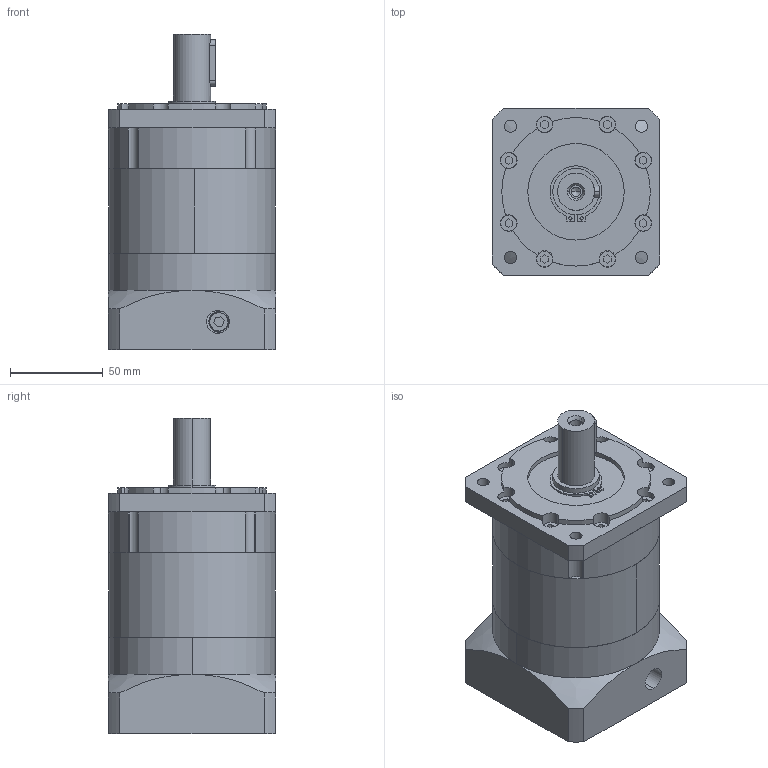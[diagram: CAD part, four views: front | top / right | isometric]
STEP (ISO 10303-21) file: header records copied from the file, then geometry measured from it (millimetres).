
FILE_DESCRIPTION (( 'STEP AP203' ), '1' );
FILE_NAME ('PLF090-L2-19-80-100.STEP', '2025-03-12T09:42:17', ( 'Windows User' ), ( 'P R C' ), 'SwSTEP 2.0', 'SolidWorks 2016', '' );
FILE_SCHEMA (( 'CONFIG_CONTROL_DESIGN' ));
Length unit declared in the file: millimetre
Products named in the file (8): PLF090-L2-19-80-100; PLF90 蟀諉啣-80-M5-100_D8-70 D9-90 D10-M5 A2-90 L4-32 L6-47(32+15) L7-6 R-59.5梓袧; PLF90 內齿圈-优化_二级内齿圈; PLF90 奻屳唳_梓袧; PLF90 狟屳唳_D6-90 D7-19 梓袧; 囀鞠褒蹟佪 M6x20; 邧埴瑩 6x6x25; 粣創-6007 35x62x14
Assembly tree (7 placements, depth 2):
  PLF090-L2-19-80-100
    PLF90 蟀諉啣-80-M5-100_D8-70 D9-90 D10-M5 A2-90 L4-32 L6-47(32+15) L7-6 R-59.5梓袧
    PLF90 內齿圈-优化_二级内齿圈
    PLF90 奻屳唳_梓袧
    PLF90 狟屳唳_D6-90 D7-19 梓袧
    囀鞠褒蹟佪 M6x20
    邧埴瑩 6x6x25
    粣創-6007 35x62x14
Bounding box: 90 x 90 x 170 mm (x, y, z)
Volume: 803508.5 mm3; surface area: 145491.8 mm2
Topology: 7 solids, 7 shells, 1084 faces, 2923 edges, 1932 vertices
Faces by surface type: plane 568, bspline 304, cylinder 198, cone 14
Entity records: 47132 total; most frequent: CARTESIAN_POINT 20756, ORIENTED_EDGE 5826, DIRECTION 4430, EDGE_CURVE 2913, VERTEX_POINT 1932, VECTOR 1594, LINE 1594, AXIS2_PLACEMENT_3D 1418
